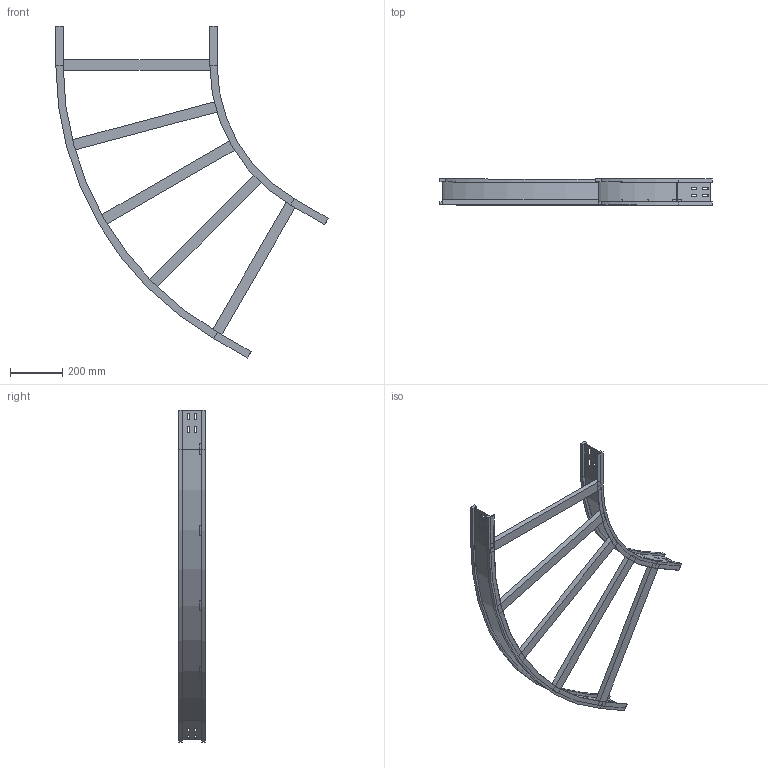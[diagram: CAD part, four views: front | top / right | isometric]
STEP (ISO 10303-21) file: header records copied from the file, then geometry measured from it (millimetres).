
FILE_DESCRIPTION (( 'STEP AP214' ), '1' );
FILE_NAME ('13S6D600.step', '2025-02-21T16:07:06', ( '' ), ( '' ), 'SwSTEP 2.0', 'SolidWorks 2023', '' );
FILE_SCHEMA (( 'AUTOMOTIVE_DESIGN' ));
Length unit declared in the file: millimetre
Products named in the file (4): LONGH.INTERNO 60°_H100_R600; 13S6D600; LONGH.ESTERNO 60°_H100_R600+600; TRAVERSINO_600
Assembly tree (7 placements, depth 2):
  13S6D600
    LONGH.INTERNO 60°_H100_R600
    LONGH.ESTERNO 60°_H100_R600+600
    TRAVERSINO_600  x5
Bounding box: 1043.4 x 100 x 1272.02 mm (x, y, z)
Volume: 3730097.7 mm3; surface area: 1103869.8 mm2
Topology: 7 solids, 7 shells, 170 faces, 420 edges, 264 vertices
Faces by surface type: plane 158, cylinder 12
Entity records: 4493 total; most frequent: CARTESIAN_POINT 760, ORIENTED_EDGE 744, DIRECTION 708, EDGE_CURVE 372, LINE 348, VECTOR 348, VERTEX_POINT 232, AXIS2_PLACEMENT_3D 180
